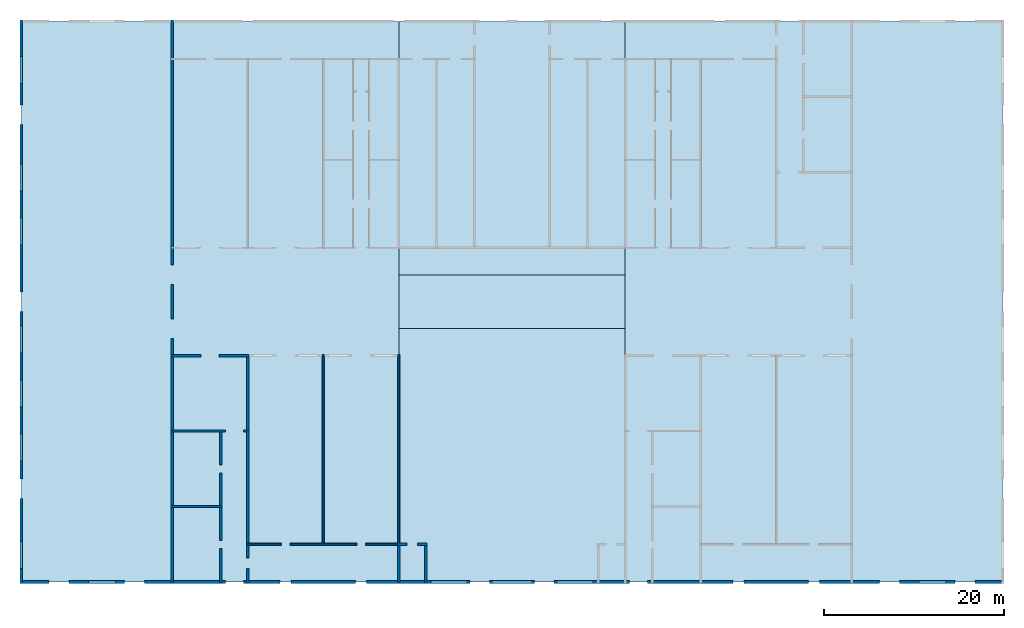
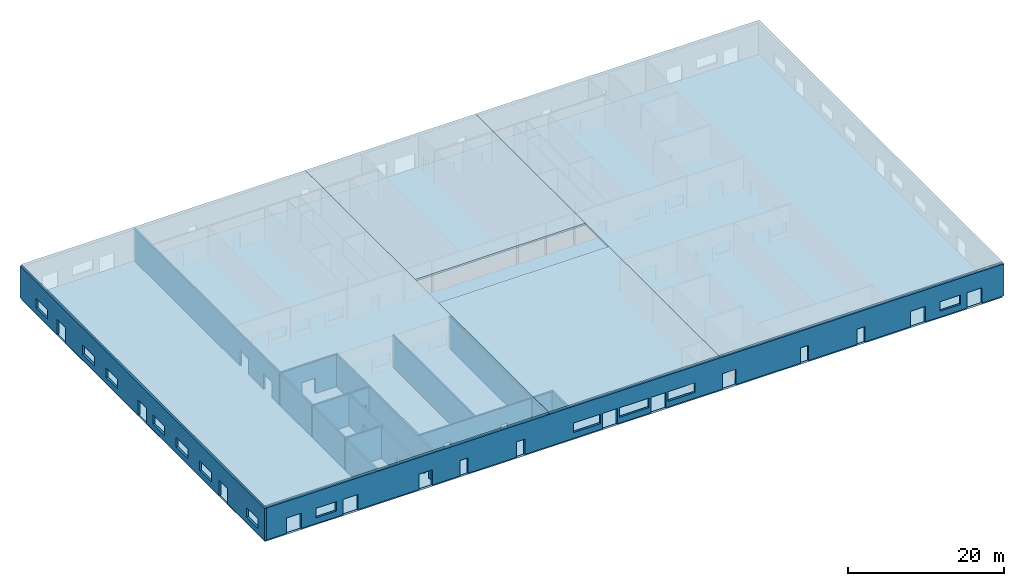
# One storey, part 1 of 3: 14 walls, 5 slabs, 52 openings.
"""IFC4 building model written with IfcOpenShell, lengths in millimetres."""

from ifc_helpers import new_model, si_unit, frame, origin_with_axes, place, context, subcontext, project, spatial, indexed_curve, outline, extrude, type_object, element, save


model = new_model("IFC4")

# Units and contexts
model_context = context("Model", 3, precision=1e-05, world=origin_with_axes())
body_context = subcontext(model_context, "Body", "Model", "MODEL_VIEW")
ifc_project = project(units=[si_unit("AREAUNIT", "SQUARE_METRE"), si_unit("VOLUMEUNIT", "CUBIC_METRE"), si_unit("LENGTHUNIT", "METRE", prefix="MILLI")], contexts=[model_context])

# Site, building, storey
site = spatial("IfcSite", under=ifc_project, Name="PIN 00000000 (sample)")
building = spatial("IfcBuilding", under=site, Name="Sample Shopping Mall")
storey = spatial("IfcBuildingStorey", under=building, Name="Ground Floor", Elevation=0.0)

# Slabs
slab_1_placement = place(None, frame((0.0, 0.0, -300.0), z_axis=(0.0, 0.0, 1.0), x_axis=(1.0, 0.0, 0.0)))
element("IfcSlab", 1, at=slab_1_placement, inside=storey, Name="Ground slab", PredefinedType="FLOOR", context=body_context, shape_type="SweptSolid", body=[
    extrude(outline(indexed_curve([(5400.0, 15600.0), (114599.99999999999, 15600.0), (114599.99999999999, 78000.0), (5400.0, 78000.0)])), None, (0.0, 0.0, 1.0), 300.0),
])
slab_2_placement = place(None, frame((0.0, 0.0, 5000.0), z_axis=(0.0, 0.0, 1.0), x_axis=(1.0, 0.0, 0.0)))
element("IfcSlab", 2, at=slab_2_placement, inside=storey, Name="Roof slab 0", PredefinedType="ROOF", context=body_context, shape_type="SweptSolid", body=[
    extrude(outline(indexed_curve([(5400.0, 15600.0), (47400.0, 15600.0), (47400.0, 78000.0), (5400.0, 78000.0)])), None, (0.0, 0.0, 1.0), 300.0),
])
slab_3_placement = place(None, frame((0.0, 0.0, 5000.0), z_axis=(0.0, 0.0, 1.0), x_axis=(1.0, 0.0, 0.0)))
element("IfcSlab", 3, at=slab_3_placement, inside=storey, Name="Roof slab 1", PredefinedType="ROOF", context=body_context, shape_type="SweptSolid", body=[
    extrude(outline(indexed_curve([(72600.0, 15600.0), (114599.99999999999, 15600.0), (114599.99999999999, 78000.0), (72600.0, 78000.0)])), None, (0.0, 0.0, 1.0), 300.0),
])
slab_4_placement = place(None, frame((0.0, 0.0, 5000.0), z_axis=(0.0, 0.0, 1.0), x_axis=(1.0, 0.0, 0.0)))
element("IfcSlab", 4, at=slab_4_placement, inside=storey, Name="Roof slab 2", PredefinedType="ROOF", context=body_context, shape_type="SweptSolid", body=[
    extrude(outline(indexed_curve([(47400.0, 15600.0), (72600.0, 15600.0), (72600.0, 43799.99999999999), (47400.0, 43799.99999999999)])), None, (0.0, 0.0, 1.0), 300.0),
])
slab_5_placement = place(None, frame((0.0, 0.0, 5000.0), z_axis=(0.0, 0.0, 1.0), x_axis=(1.0, 0.0, 0.0)))
element("IfcSlab", 5, at=slab_5_placement, inside=storey, Name="Roof slab 3", PredefinedType="ROOF", context=body_context, shape_type="SweptSolid", body=[
    extrude(outline(indexed_curve([(47400.0, 49799.99999999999), (72600.0, 49799.99999999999), (72600.0, 78000.0), (47400.0, 78000.0)])), None, (0.0, 0.0, 1.0), 300.0),
])

# Wall, openings
wall_type_1 = type_object("IfcWallType", Name="WT-300", PredefinedType="SOLIDWALL")
wall_1_placement = place(None, frame((5250.0, 15449.999999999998, 0.0), z_axis=(0.0, 0.0, 1.0), x_axis=(1.0, 0.0, 0.0)))
wall_1 = element("IfcWall", 6, at=wall_1_placement, inside=storey, type_object=wall_type_1, Name="W0", context=body_context, shape_type="SweptSolid", body=[
    extrude(outline(indexed_curve([(0.0, 0.0), (0.0, 300.0), (109499.99999999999, 300.0), (109499.99999999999, 0.0), (0.0, 0.0)], self_intersect=False)), origin_with_axes(), (0.0, 0.0, 1.0), 5000.0),
])
opening_1_placement = place(wall_1_placement, frame((50049.99999999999, -99.99999999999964, 0.0), z_axis=(0.0, 0.0, 1.0), x_axis=(1.0, 0.0, 0.0)))
element("IfcOpeningElement", 7, at=opening_1_placement, cuts=wall_1, Name="D03-opening", context=body_context, shape_type="SweptSolid", body=[
    extrude(outline(indexed_curve([(0.0, 0.0), (0.0, 500.0), (1100.0, 500.0), (1100.0, 0.0), (0.0, 0.0)], self_intersect=False)), origin_with_axes(), (0.0, 0.0, 1.0), 2400.0),
])
opening_2_placement = place(wall_1_placement, frame((51150.0, -99.99999999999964, 0.0), z_axis=(0.0, 0.0, 1.0), x_axis=(1.0, 0.0, 0.0)))
element("IfcOpeningElement", 8, at=opening_2_placement, cuts=wall_1, Name="-opening", context=body_context, shape_type="SweptSolid", body=[
    extrude(outline(indexed_curve([(0.0, 0.0), (0.0, 500.0), (1100.0, 500.0), (1100.0, 0.0), (0.0, 0.0)], self_intersect=False)), origin_with_axes(), (0.0, 0.0, 1.0), 2400.0),
])
opening_3_placement = place(wall_1_placement, frame((57250.0, -99.99999999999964, 0.0), z_axis=(0.0, 0.0, 1.0), x_axis=(1.0, 0.0, 0.0)))
element("IfcOpeningElement", 9, at=opening_3_placement, cuts=wall_1, Name="D04-opening", context=body_context, shape_type="SweptSolid", body=[
    extrude(outline(indexed_curve([(0.0, 0.0), (0.0, 500.0), (1100.0, 500.0), (1100.0, 0.0), (0.0, 0.0)], self_intersect=False)), origin_with_axes(), (0.0, 0.0, 1.0), 2400.0),
])
opening_4_placement = place(wall_1_placement, frame((58350.0, -99.99999999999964, 0.0), z_axis=(0.0, 0.0, 1.0), x_axis=(1.0, 0.0, 0.0)))
element("IfcOpeningElement", 10, at=opening_4_placement, cuts=wall_1, Name="-opening", context=body_context, shape_type="SweptSolid", body=[
    extrude(outline(indexed_curve([(0.0, 0.0), (0.0, 500.0), (1100.0, 500.0), (1100.0, 0.0), (0.0, 0.0)], self_intersect=False)), origin_with_axes(), (0.0, 0.0, 1.0), 2400.0),
])
opening_5_placement = place(wall_1_placement, frame((3250.0, -99.99999999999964, 0.0), z_axis=(0.0, 0.0, 1.0), x_axis=(1.0, 0.0, 0.0)))
element("IfcOpeningElement", 11, at=opening_5_placement, cuts=wall_1, Name="D10-opening", context=body_context, shape_type="SweptSolid", body=[
    extrude(outline(indexed_curve([(0.0, 0.0), (0.0, 500.0), (1100.0, 500.0), (1100.0, 0.0), (0.0, 0.0)], self_intersect=False)), origin_with_axes(), (0.0, 0.0, 1.0), 2400.0),
])
opening_6_placement = place(wall_1_placement, frame((4350.000000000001, -99.99999999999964, 0.0), z_axis=(0.0, 0.0, 1.0), x_axis=(1.0, 0.0, 0.0)))
element("IfcOpeningElement", 12, at=opening_6_placement, cuts=wall_1, Name="-opening", context=body_context, shape_type="SweptSolid", body=[
    extrude(outline(indexed_curve([(0.0, 0.0), (0.0, 500.0), (1100.0, 500.0), (1100.0, 0.0), (0.0, 0.0)], self_intersect=False)), origin_with_axes(), (0.0, 0.0, 1.0), 2400.0),
])
opening_7_placement = place(wall_1_placement, frame((11649.999999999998, -99.99999999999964, 0.0), z_axis=(0.0, 0.0, 1.0), x_axis=(1.0, 0.0, 0.0)))
element("IfcOpeningElement", 13, at=opening_7_placement, cuts=wall_1, Name="D11-opening", context=body_context, shape_type="SweptSolid", body=[
    extrude(outline(indexed_curve([(0.0, 0.0), (0.0, 500.0), (1100.0, 500.0), (1100.0, 0.0), (0.0, 0.0)], self_intersect=False)), origin_with_axes(), (0.0, 0.0, 1.0), 2400.0),
])
opening_8_placement = place(wall_1_placement, frame((12750.0, -99.99999999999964, 0.0), z_axis=(0.0, 0.0, 1.0), x_axis=(1.0, 0.0, 0.0)))
element("IfcOpeningElement", 14, at=opening_8_placement, cuts=wall_1, Name="-opening", context=body_context, shape_type="SweptSolid", body=[
    extrude(outline(indexed_curve([(0.0, 0.0), (0.0, 500.0), (1100.0, 500.0), (1100.0, 0.0), (0.0, 0.0)], self_intersect=False)), origin_with_axes(), (0.0, 0.0, 1.0), 2400.0),
])
opening_9_placement = place(wall_1_placement, frame((95650.0, -99.99999999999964, 0.0), z_axis=(0.0, 0.0, 1.0), x_axis=(1.0, 0.0, 0.0)))
element("IfcOpeningElement", 15, at=opening_9_placement, cuts=wall_1, Name="D19-opening", context=body_context, shape_type="SweptSolid", body=[
    extrude(outline(indexed_curve([(0.0, 0.0), (0.0, 500.0), (1100.0, 500.0), (1100.0, 0.0), (0.0, 0.0)], self_intersect=False)), origin_with_axes(), (0.0, 0.0, 1.0), 2400.0),
])
opening_10_placement = place(wall_1_placement, frame((96750.0, -99.99999999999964, 0.0), z_axis=(0.0, 0.0, 1.0), x_axis=(1.0, 0.0, 0.0)))
element("IfcOpeningElement", 16, at=opening_10_placement, cuts=wall_1, Name="-opening", context=body_context, shape_type="SweptSolid", body=[
    extrude(outline(indexed_curve([(0.0, 0.0), (0.0, 500.0), (1100.0, 500.0), (1100.0, 0.0), (0.0, 0.0)], self_intersect=False)), origin_with_axes(), (0.0, 0.0, 1.0), 2400.0),
])
opening_11_placement = place(wall_1_placement, frame((104050.00000000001, -99.99999999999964, 0.0), z_axis=(0.0, 0.0, 1.0), x_axis=(1.0, 0.0, 0.0)))
element("IfcOpeningElement", 17, at=opening_11_placement, cuts=wall_1, Name="D20-opening", context=body_context, shape_type="SweptSolid", body=[
    extrude(outline(indexed_curve([(0.0, 0.0), (0.0, 500.0), (1100.0, 500.0), (1100.0, 0.0), (0.0, 0.0)], self_intersect=False)), origin_with_axes(), (0.0, 0.0, 1.0), 2400.0),
])
opening_12_placement = place(wall_1_placement, frame((105150.0, -99.99999999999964, 0.0), z_axis=(0.0, 0.0, 1.0), x_axis=(1.0, 0.0, 0.0)))
element("IfcOpeningElement", 18, at=opening_12_placement, cuts=wall_1, Name="-opening", context=body_context, shape_type="SweptSolid", body=[
    extrude(outline(indexed_curve([(0.0, 0.0), (0.0, 500.0), (1100.0, 500.0), (1100.0, 0.0), (0.0, 0.0)], self_intersect=False)), origin_with_axes(), (0.0, 0.0, 1.0), 2400.0),
])
opening_13_placement = place(wall_1_placement, frame((28950.000000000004, -99.99999999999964, 0.0), z_axis=(0.0, 0.0, 1.0), x_axis=(1.0, 0.0, 0.0)))
element("IfcOpeningElement", 19, at=opening_13_placement, cuts=wall_1, Name="D23-opening", context=body_context, shape_type="SweptSolid", body=[
    extrude(outline(indexed_curve([(0.0, 0.0), (0.0, 500.0), (1200.0, 500.0), (1200.0, 0.0), (0.0, 0.0)], self_intersect=False)), origin_with_axes(), (0.0, 0.0, 1.0), 2400.0),
])
opening_14_placement = place(wall_1_placement, frame((37350.0, -99.99999999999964, 0.0), z_axis=(0.0, 0.0, 1.0), x_axis=(1.0, 0.0, 0.0)))
element("IfcOpeningElement", 20, at=opening_14_placement, cuts=wall_1, Name="D24-opening", context=body_context, shape_type="SweptSolid", body=[
    extrude(outline(indexed_curve([(0.0, 0.0), (0.0, 500.0), (1200.0, 500.0), (1200.0, 0.0), (0.0, 0.0)], self_intersect=False)), origin_with_axes(), (0.0, 0.0, 1.0), 2400.0),
])
opening_15_placement = place(wall_1_placement, frame((79350.0, -99.99999999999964, 0.0), z_axis=(0.0, 0.0, 1.0), x_axis=(1.0, 0.0, 0.0)))
element("IfcOpeningElement", 21, at=opening_15_placement, cuts=wall_1, Name="D25-opening", context=body_context, shape_type="SweptSolid", body=[
    extrude(outline(indexed_curve([(0.0, 0.0), (0.0, 500.0), (1200.0, 500.0), (1200.0, 0.0), (0.0, 0.0)], self_intersect=False)), origin_with_axes(), (0.0, 0.0, 1.0), 2400.0),
])
opening_16_placement = place(wall_1_placement, frame((87750.0, -99.99999999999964, 0.0), z_axis=(0.0, 0.0, 1.0), x_axis=(1.0, 0.0, 0.0)))
element("IfcOpeningElement", 22, at=opening_16_placement, cuts=wall_1, Name="D26-opening", context=body_context, shape_type="SweptSolid", body=[
    extrude(outline(indexed_curve([(0.0, 0.0), (0.0, 500.0), (1200.0, 500.0), (1200.0, 0.0), (0.0, 0.0)], self_intersect=False)), origin_with_axes(), (0.0, 0.0, 1.0), 2400.0),
])
opening_17_placement = place(wall_1_placement, frame((22850.0, -99.99999999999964, 0.0), z_axis=(0.0, 0.0, 1.0), x_axis=(1.0, 0.0, 0.0)))
element("IfcOpeningElement", 23, at=opening_17_placement, cuts=wall_1, Name="D33-opening", context=body_context, shape_type="SweptSolid", body=[
    extrude(outline(indexed_curve([(0.0, 0.0), (0.0, 500.0), (1000.0, 500.0), (1000.0, 0.0), (0.0, 0.0)], self_intersect=False)), origin_with_axes(), (0.0, 0.0, 1.0), 2400.0),
])
opening_18_placement = place(wall_1_placement, frame((23850.0, -99.99999999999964, 0.0), z_axis=(0.0, 0.0, 1.0), x_axis=(1.0, 0.0, 0.0)))
element("IfcOpeningElement", 24, at=opening_18_placement, cuts=wall_1, Name="-opening", context=body_context, shape_type="SweptSolid", body=[
    extrude(outline(indexed_curve([(0.0, 0.0), (0.0, 500.0), (1000.0, 500.0), (1000.0, 0.0), (0.0, 0.0)], self_intersect=False)), origin_with_axes(), (0.0, 0.0, 1.0), 2400.0),
])
opening_19_placement = place(wall_1_placement, frame((67850.0, -99.99999999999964, 0.0), z_axis=(0.0, 0.0, 1.0), x_axis=(1.0, 0.0, 0.0)))
element("IfcOpeningElement", 25, at=opening_19_placement, cuts=wall_1, Name="D43-opening", context=body_context, shape_type="SweptSolid", body=[
    extrude(outline(indexed_curve([(0.0, 0.0), (0.0, 500.0), (1000.0, 500.0), (1000.0, 0.0), (0.0, 0.0)], self_intersect=False)), origin_with_axes(), (0.0, 0.0, 1.0), 2400.0),
])
opening_20_placement = place(wall_1_placement, frame((68850.0, -99.99999999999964, 0.0), z_axis=(0.0, 0.0, 1.0), x_axis=(1.0, 0.0, 0.0)))
element("IfcOpeningElement", 26, at=opening_20_placement, cuts=wall_1, Name="-opening", context=body_context, shape_type="SweptSolid", body=[
    extrude(outline(indexed_curve([(0.0, 0.0), (0.0, 500.0), (1000.0, 500.0), (1000.0, 0.0), (0.0, 0.0)], self_intersect=False)), origin_with_axes(), (0.0, 0.0, 1.0), 2400.0),
])
opening_21_placement = place(wall_1_placement, frame((45750.0, -99.99999999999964, 900.0), z_axis=(0.0, 0.0, 1.0), x_axis=(1.0, 0.0, 0.0)))
element("IfcOpeningElement", 27, at=opening_21_placement, cuts=wall_1, Name="-opening", context=body_context, shape_type="SweptSolid", body=[
    extrude(outline(indexed_curve([(0.0, 0.0), (0.0, 500.0), (4000.0, 500.0), (4000.0, 0.0), (0.0, 0.0)], self_intersect=False)), origin_with_axes(), (0.0, 0.0, 1.0), 1500.0),
])
opening_22_placement = place(wall_1_placement, frame((52549.99999999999, -99.99999999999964, 900.0), z_axis=(0.0, 0.0, 1.0), x_axis=(1.0, 0.0, 0.0)))
element("IfcOpeningElement", 28, at=opening_22_placement, cuts=wall_1, Name="-opening", context=body_context, shape_type="SweptSolid", body=[
    extrude(outline(indexed_curve([(0.0, 0.0), (0.0, 500.0), (4400.0, 500.0), (4400.0, 0.0), (0.0, 0.0)], self_intersect=False)), origin_with_axes(), (0.0, 0.0, 1.0), 1500.0),
])
opening_23_placement = place(wall_1_placement, frame((59750.0, -99.99999999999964, 900.0), z_axis=(0.0, 0.0, 1.0), x_axis=(1.0, 0.0, 0.0)))
element("IfcOpeningElement", 29, at=opening_23_placement, cuts=wall_1, Name="-opening", context=body_context, shape_type="SweptSolid", body=[
    extrude(outline(indexed_curve([(0.0, 0.0), (0.0, 500.0), (4000.0, 500.0), (4000.0, 0.0), (0.0, 0.0)], self_intersect=False)), origin_with_axes(), (0.0, 0.0, 1.0), 1500.0),
])
opening_24_placement = place(wall_1_placement, frame((7650.0, -99.99999999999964, 900.0), z_axis=(0.0, 0.0, 1.0), x_axis=(1.0, 0.0, 0.0)))
element("IfcOpeningElement", 30, at=opening_24_placement, cuts=wall_1, Name="-opening", context=body_context, shape_type="SweptSolid", body=[
    extrude(outline(indexed_curve([(0.0, 0.0), (0.0, 500.0), (3000.0, 500.0), (3000.0, 0.0), (0.0, 0.0)], self_intersect=False)), origin_with_axes(), (0.0, 0.0, 1.0), 1500.0),
])
opening_25_placement = place(wall_1_placement, frame((100050.00000000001, -99.99999999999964, 900.0), z_axis=(0.0, 0.0, 1.0), x_axis=(1.0, 0.0, 0.0)))
element("IfcOpeningElement", 31, at=opening_25_placement, cuts=wall_1, Name="-opening", context=body_context, shape_type="SweptSolid", body=[
    extrude(outline(indexed_curve([(0.0, 0.0), (0.0, 500.0), (3000.0, 500.0), (3000.0, 0.0), (0.0, 0.0)], self_intersect=False)), origin_with_axes(), (0.0, 0.0, 1.0), 1500.0),
])

wall_2_placement = place(None, frame((5550.000000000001, 15449.999999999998, 0.0), z_axis=(0.0, 0.0, 1.0), x_axis=(6.123233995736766e-17, 1.0, 0.0)))
wall_2 = element("IfcWall", 32, at=wall_2_placement, inside=storey, type_object=wall_type_1, Name="W30", context=body_context, shape_type="SweptSolid", body=[
    extrude(outline(indexed_curve([(0.0, 0.0), (0.0, 300.0), (62699.99999999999, 300.0), (62699.99999999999, 0.0), (0.0, 0.0)], self_intersect=False)), origin_with_axes(), (0.0, 0.0, 1.0), 5000.0),
])
opening_26_placement = place(wall_2_placement, frame((9450.0, -99.99999999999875, 0.0), z_axis=(0.0, 0.0, 1.0), x_axis=(1.0, 0.0, 0.0)))
element("IfcOpeningElement", 33, at=opening_26_placement, cuts=wall_2, Name="D07-opening", context=body_context, shape_type="SweptSolid", body=[
    extrude(outline(indexed_curve([(0.0, 0.0), (0.0, 500.0), (1100.0, 500.0), (1100.0, 0.0), (0.0, 0.0)], self_intersect=False)), origin_with_axes(), (0.0, 0.0, 1.0), 2400.0),
])
opening_27_placement = place(wall_2_placement, frame((10550.0, -99.99999999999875, 0.0), z_axis=(0.0, 0.0, 1.0), x_axis=(1.0, 0.0, 0.0)))
element("IfcOpeningElement", 34, at=opening_27_placement, cuts=wall_2, Name="-opening", context=body_context, shape_type="SweptSolid", body=[
    extrude(outline(indexed_curve([(0.0, 0.0), (0.0, 500.0), (1100.0, 500.0), (1100.0, 0.0), (0.0, 0.0)], self_intersect=False)), origin_with_axes(), (0.0, 0.0, 1.0), 2400.0),
])
opening_28_placement = place(wall_2_placement, frame((30250.000000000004, -99.99999999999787, 0.0), z_axis=(0.0, 0.0, 1.0), x_axis=(1.0, 0.0, 0.0)))
element("IfcOpeningElement", 35, at=opening_28_placement, cuts=wall_2, Name="D08-opening", context=body_context, shape_type="SweptSolid", body=[
    extrude(outline(indexed_curve([(0.0, 0.0), (0.0, 500.0), (1100.0, 500.0), (1100.0, 0.0), (0.0, 0.0)], self_intersect=False)), origin_with_axes(), (0.0, 0.0, 1.0), 2400.0),
])
opening_29_placement = place(wall_2_placement, frame((31349.999999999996, -99.99999999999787, 0.0), z_axis=(0.0, 0.0, 1.0), x_axis=(1.0, 0.0, 0.0)))
element("IfcOpeningElement", 36, at=opening_29_placement, cuts=wall_2, Name="-opening", context=body_context, shape_type="SweptSolid", body=[
    extrude(outline(indexed_curve([(0.0, 0.0), (0.0, 500.0), (1100.0, 500.0), (1100.0, 0.0), (0.0, 0.0)], self_intersect=False)), origin_with_axes(), (0.0, 0.0, 1.0), 2400.0),
])
opening_30_placement = place(wall_2_placement, frame((51049.99999999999, -99.99999999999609, 0.0), z_axis=(0.0, 0.0, 1.0), x_axis=(1.0, 0.0, 0.0)))
element("IfcOpeningElement", 37, at=opening_30_placement, cuts=wall_2, Name="D09-opening", context=body_context, shape_type="SweptSolid", body=[
    extrude(outline(indexed_curve([(0.0, 0.0), (0.0, 500.0), (1100.0, 500.0), (1100.0, 0.0), (0.0, 0.0)], self_intersect=False)), origin_with_axes(), (0.0, 0.0, 1.0), 2400.0),
])
opening_31_placement = place(wall_2_placement, frame((52149.99999999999, -99.99999999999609, 0.0), z_axis=(0.0, 0.0, 1.0), x_axis=(1.0, 0.0, 0.0)))
element("IfcOpeningElement", 38, at=opening_31_placement, cuts=wall_2, Name="-opening", context=body_context, shape_type="SweptSolid", body=[
    extrude(outline(indexed_curve([(0.0, 0.0), (0.0, 500.0), (1100.0, 500.0), (1100.0, 0.0), (0.0, 0.0)], self_intersect=False)), origin_with_axes(), (0.0, 0.0, 1.0), 2400.0),
])
opening_32_placement = place(wall_2_placement, frame((1650.000000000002, -99.99999999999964, 900.0), z_axis=(0.0, 0.0, 1.0), x_axis=(1.0, 0.0, 0.0)))
element("IfcOpeningElement", 39, at=opening_32_placement, cuts=wall_2, Name="-opening", context=body_context, shape_type="SweptSolid", body=[
    extrude(outline(indexed_curve([(0.0, 0.0), (0.0, 500.0), (3000.0, 500.0), (3000.0, 0.0), (0.0, 0.0)], self_intersect=False)), origin_with_axes(), (0.0, 0.0, 1.0), 1500.0),
])
opening_33_placement = place(wall_2_placement, frame((13650.000000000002, -99.99999999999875, 900.0), z_axis=(0.0, 0.0, 1.0), x_axis=(1.0, 0.0, 0.0)))
element("IfcOpeningElement", 40, at=opening_33_placement, cuts=wall_2, Name="-opening", context=body_context, shape_type="SweptSolid", body=[
    extrude(outline(indexed_curve([(0.0, 0.0), (0.0, 500.0), (3000.0, 500.0), (3000.0, 0.0), (0.0, 0.0)], self_intersect=False)), origin_with_axes(), (0.0, 0.0, 1.0), 1500.0),
])
opening_34_placement = place(wall_2_placement, frame((19650.0, -99.99999999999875, 900.0), z_axis=(0.0, 0.0, 1.0), x_axis=(1.0, 0.0, 0.0)))
element("IfcOpeningElement", 41, at=opening_34_placement, cuts=wall_2, Name="-opening", context=body_context, shape_type="SweptSolid", body=[
    extrude(outline(indexed_curve([(0.0, 0.0), (0.0, 500.0), (3000.0, 500.0), (3000.0, 0.0), (0.0, 0.0)], self_intersect=False)), origin_with_axes(), (0.0, 0.0, 1.0), 1500.0),
])
opening_35_placement = place(wall_2_placement, frame((25650.0, -99.99999999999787, 900.0), z_axis=(0.0, 0.0, 1.0), x_axis=(1.0, 0.0, 0.0)))
element("IfcOpeningElement", 42, at=opening_35_placement, cuts=wall_2, Name="-opening", context=body_context, shape_type="SweptSolid", body=[
    extrude(outline(indexed_curve([(0.0, 0.0), (0.0, 500.0), (3000.0, 500.0), (3000.0, 0.0), (0.0, 0.0)], self_intersect=False)), origin_with_axes(), (0.0, 0.0, 1.0), 1500.0),
])
opening_36_placement = place(wall_2_placement, frame((37650.00000000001, -99.99999999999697, 900.0), z_axis=(0.0, 0.0, 1.0), x_axis=(1.0, 0.0, 0.0)))
element("IfcOpeningElement", 43, at=opening_36_placement, cuts=wall_2, Name="-opening", context=body_context, shape_type="SweptSolid", body=[
    extrude(outline(indexed_curve([(0.0, 0.0), (0.0, 500.0), (3000.0, 500.0), (3000.0, 0.0), (0.0, 0.0)], self_intersect=False)), origin_with_axes(), (0.0, 0.0, 1.0), 1500.0),
])
opening_37_placement = place(wall_2_placement, frame((43650.00000000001, -99.99999999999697, 900.0), z_axis=(0.0, 0.0, 1.0), x_axis=(1.0, 0.0, 0.0)))
element("IfcOpeningElement", 44, at=opening_37_placement, cuts=wall_2, Name="-opening", context=body_context, shape_type="SweptSolid", body=[
    extrude(outline(indexed_curve([(0.0, 0.0), (0.0, 500.0), (3000.0, 500.0), (3000.0, 0.0), (0.0, 0.0)], self_intersect=False)), origin_with_axes(), (0.0, 0.0, 1.0), 1500.0),
])
opening_38_placement = place(wall_2_placement, frame((55650.00000000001, -99.99999999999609, 900.0), z_axis=(0.0, 0.0, 1.0), x_axis=(1.0, 0.0, 0.0)))
element("IfcOpeningElement", 45, at=opening_38_placement, cuts=wall_2, Name="-opening", context=body_context, shape_type="SweptSolid", body=[
    extrude(outline(indexed_curve([(0.0, 0.0), (0.0, 500.0), (3000.0, 500.0), (3000.0, 0.0), (0.0, 0.0)], self_intersect=False)), origin_with_axes(), (0.0, 0.0, 1.0), 1500.0),
])

wall_type_2 = type_object("IfcWallType", Name="WT-200", PredefinedType="SOLIDWALL")
wall_3_placement = place(None, frame((30500.0, 19700.0, 0.0), z_axis=(0.0, 0.0, 1.0), x_axis=(1.0, 0.0, 0.0)))
wall_3 = element("IfcWall", 46, at=wall_3_placement, inside=storey, type_object=wall_type_2, Name="W1", context=body_context, shape_type="SweptSolid", body=[
    extrude(outline(indexed_curve([(0.0, 0.0), (0.0, 200.0), (16999.999999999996, 200.0), (16999.999999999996, 0.0), (0.0, 0.0)], self_intersect=False)), origin_with_axes(), (0.0, 0.0, 1.0), 5000.0),
])
opening_39_placement = place(wall_3_placement, frame((3800.000000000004, -99.99999999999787, 0.0), z_axis=(0.0, 0.0, 1.0), x_axis=(1.0, 0.0, 0.0)))
element("IfcOpeningElement", 47, at=opening_39_placement, cuts=wall_3, Name="-opening", context=body_context, shape_type="SweptSolid", body=[
    extrude(outline(indexed_curve([(0.0, 0.0), (0.0, 400.0), (1000.0, 400.0), (1000.0, 0.0), (0.0, 0.0)], self_intersect=False)), origin_with_axes(), (0.0, 0.0, 1.0), 2400.0),
])
opening_40_placement = place(wall_3_placement, frame((12200.000000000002, -99.99999999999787, 0.0), z_axis=(0.0, 0.0, 1.0), x_axis=(1.0, 0.0, 0.0)))
element("IfcOpeningElement", 48, at=opening_40_placement, cuts=wall_3, Name="-opening", context=body_context, shape_type="SweptSolid", body=[
    extrude(outline(indexed_curve([(0.0, 0.0), (0.0, 400.0), (1000.0, 400.0), (1000.0, 0.0), (0.0, 0.0)], self_intersect=False)), origin_with_axes(), (0.0, 0.0, 1.0), 2400.0),
])

# Walls
for number, where, z_axis, x_axis, name in (
    (49, (39100.0, 19700.0, 0.0), (0.0, 0.0, 1.0), (6.123233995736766e-17, 1.0, 0.0), "W35"),
    (50, (47500.0, 19700.0, 0.0), (0.0, 0.0, 1.0), (6.123233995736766e-17, 1.0, 0.0), "W40"),
):
    element("IfcWall", number, at=place(None, frame(where, z_axis=z_axis, x_axis=x_axis)), inside=storey, type_object=wall_type_2, Name=name, context=body_context, shape_type="SweptSolid", body=[
        extrude(outline(indexed_curve([(0.0, 0.0), (0.0, 200.0), (21199.999999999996, 200.0), (21199.999999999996, 0.0), (0.0, 0.0)], self_intersect=False)), origin_with_axes(), (0.0, 0.0, 1.0), 5000.0),
    ])

# Wall, opening
wall_type_3 = type_object("IfcWallType", Name="WT-250", PredefinedType="SOLIDWALL")
wall_4_placement = place(None, frame((47275.0, 19675.0, 0.0), z_axis=(0.0, 0.0, 1.0), x_axis=(1.0, 0.0, 0.0)))
wall_4 = element("IfcWall", 51, at=wall_4_placement, inside=storey, type_object=wall_type_3, Name="W2", context=body_context, shape_type="SweptSolid", body=[
    extrude(outline(indexed_curve([(0.0, 0.0), (0.0, 250.0), (3250.0, 250.0), (3250.0, 0.0), (0.0, 0.0)], self_intersect=False)), origin_with_axes(), (0.0, 0.0, 1.0), 5000.0),
])
opening_41_placement = place(wall_4_placement, frame((1024.9999999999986, -100.00000000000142, 0.0), z_axis=(0.0, 0.0, 1.0), x_axis=(1.0, 0.0, 0.0)))
element("IfcOpeningElement", 52, at=opening_41_placement, cuts=wall_4, Name="D01-opening", context=body_context, shape_type="SweptSolid", body=[
    extrude(outline(indexed_curve([(0.0, 0.0), (0.0, 450.0), (1200.0, 450.0), (1200.0, 0.0), (0.0, 0.0)], self_intersect=False)), origin_with_axes(), (0.0, 0.0, 1.0), 2400.0),
])

# Wall
wall_5_placement = place(None, frame((22075.0, 23875.0, 0.0), z_axis=(0.0, 0.0, 1.0), x_axis=(1.0, 0.0, 0.0)))
element("IfcWall", 53, at=wall_5_placement, inside=storey, type_object=wall_type_3, Name="W5", context=body_context, shape_type="SweptSolid", body=[
    extrude(outline(indexed_curve([(0.0, 0.0), (0.0, 250.0), (5650.000000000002, 250.0), (5650.000000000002, 0.0), (0.0, 0.0)], self_intersect=False)), origin_with_axes(), (0.0, 0.0, 1.0), 5000.0),
])

# Wall, openings
wall_6_placement = place(None, frame((22075.0, 32274.999999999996, 0.0), z_axis=(0.0, 0.0, 1.0), x_axis=(1.0, 0.0, 0.0)))
wall_6 = element("IfcWall", 54, at=wall_6_placement, inside=storey, type_object=wall_type_3, Name="W7", context=body_context, shape_type="SweptSolid", body=[
    extrude(outline(indexed_curve([(0.0, 0.0), (0.0, 250.0), (8650.000000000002, 250.0), (8650.000000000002, 0.0), (0.0, 0.0)], self_intersect=False)), origin_with_axes(), (0.0, 0.0, 1.0), 5000.0),
])
opening_42_placement = place(wall_6_placement, frame((6025.000000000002, -100.00000000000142, 0.0), z_axis=(0.0, 0.0, 1.0), x_axis=(1.0, 0.0, 0.0)))
element("IfcOpeningElement", 55, at=opening_42_placement, cuts=wall_6, Name="D32-opening", context=body_context, shape_type="SweptSolid", body=[
    extrude(outline(indexed_curve([(0.0, 0.0), (0.0, 450.0), (1000.0, 450.0), (1000.0, 0.0), (0.0, 0.0)], self_intersect=False)), origin_with_axes(), (0.0, 0.0, 1.0), 2400.0),
])
opening_43_placement = place(wall_6_placement, frame((7025.000000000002, -100.00000000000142, 0.0), z_axis=(0.0, 0.0, 1.0), x_axis=(1.0, 0.0, 0.0)))
element("IfcOpeningElement", 56, at=opening_43_placement, cuts=wall_6, Name="-opening", context=body_context, shape_type="SweptSolid", body=[
    extrude(outline(indexed_curve([(0.0, 0.0), (0.0, 450.0), (1000.0, 450.0), (1000.0, 0.0), (0.0, 0.0)], self_intersect=False)), origin_with_axes(), (0.0, 0.0, 1.0), 2400.0),
])

wall_7_placement = place(None, frame((22075.0, 40674.99999999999, 0.0), z_axis=(0.0, 0.0, 1.0), x_axis=(1.0, 0.0, 0.0)))
wall_7 = element("IfcWall", 57, at=wall_7_placement, inside=storey, type_object=wall_type_3, Name="W9", context=body_context, shape_type="SweptSolid", body=[
    extrude(outline(indexed_curve([(0.0, 0.0), (0.0, 250.0), (8650.000000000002, 250.0), (8650.000000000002, 0.0), (0.0, 0.0)], self_intersect=False)), origin_with_axes(), (0.0, 0.0, 1.0), 5000.0),
])
opening_44_placement = place(wall_7_placement, frame((3324.999999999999, -99.99999999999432, 0.0), z_axis=(0.0, 0.0, 1.0), x_axis=(1.0, 0.0, 0.0)))
element("IfcOpeningElement", 58, at=opening_44_placement, cuts=wall_7, Name="D31-opening", context=body_context, shape_type="SweptSolid", body=[
    extrude(outline(indexed_curve([(0.0, 0.0), (0.0, 450.0), (1000.0, 450.0), (1000.0, 0.0), (0.0, 0.0)], self_intersect=False)), origin_with_axes(), (0.0, 0.0, 1.0), 2400.0),
])
opening_45_placement = place(wall_7_placement, frame((4324.999999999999, -99.99999999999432, 0.0), z_axis=(0.0, 0.0, 1.0), x_axis=(1.0, 0.0, 0.0)))
element("IfcOpeningElement", 59, at=opening_45_placement, cuts=wall_7, Name="-opening", context=body_context, shape_type="SweptSolid", body=[
    extrude(outline(indexed_curve([(0.0, 0.0), (0.0, 450.0), (1000.0, 450.0), (1000.0, 0.0), (0.0, 0.0)], self_intersect=False)), origin_with_axes(), (0.0, 0.0, 1.0), 2400.0),
])

wall_8_placement = place(None, frame((22325.0, 15475.0, 0.0), z_axis=(0.0, 0.0, 1.0), x_axis=(6.123233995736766e-17, 1.0, 0.0)))
wall_8 = element("IfcWall", 60, at=wall_8_placement, inside=storey, type_object=wall_type_3, Name="W31", context=body_context, shape_type="SweptSolid", body=[
    extrude(outline(indexed_curve([(0.0, 0.0), (0.0, 250.0), (62650.0, 250.0), (62650.0, 0.0), (0.0, 0.0)], self_intersect=False)), origin_with_axes(), (0.0, 0.0, 1.0), 5000.0),
])
opening_46_placement = place(wall_8_placement, frame((27225.0, -99.99999999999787, 0.0), z_axis=(0.0, 0.0, 1.0), x_axis=(1.0, 0.0, 0.0)))
element("IfcOpeningElement", 61, at=opening_46_placement, cuts=wall_8, Name="D05-opening", context=body_context, shape_type="SweptSolid", body=[
    extrude(outline(indexed_curve([(0.0, 0.0), (0.0, 450.0), (1100.0, 450.0), (1100.0, 0.0), (0.0, 0.0)], self_intersect=False)), origin_with_axes(), (0.0, 0.0, 1.0), 2400.0),
])
opening_47_placement = place(wall_8_placement, frame((28324.999999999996, -99.99999999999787, 0.0), z_axis=(0.0, 0.0, 1.0), x_axis=(1.0, 0.0, 0.0)))
element("IfcOpeningElement", 62, at=opening_47_placement, cuts=wall_8, Name="-opening", context=body_context, shape_type="SweptSolid", body=[
    extrude(outline(indexed_curve([(0.0, 0.0), (0.0, 450.0), (1100.0, 450.0), (1100.0, 0.0), (0.0, 0.0)], self_intersect=False)), origin_with_axes(), (0.0, 0.0, 1.0), 2400.0),
])
opening_48_placement = place(wall_8_placement, frame((33225.0, -99.99999999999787, 0.0), z_axis=(0.0, 0.0, 1.0), x_axis=(1.0, 0.0, 0.0)))
element("IfcOpeningElement", 63, at=opening_48_placement, cuts=wall_8, Name="D06-opening", context=body_context, shape_type="SweptSolid", body=[
    extrude(outline(indexed_curve([(0.0, 0.0), (0.0, 450.0), (1100.0, 450.0), (1100.0, 0.0), (0.0, 0.0)], self_intersect=False)), origin_with_axes(), (0.0, 0.0, 1.0), 2400.0),
])
opening_49_placement = place(wall_8_placement, frame((34325.0, -99.99999999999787, 0.0), z_axis=(0.0, 0.0, 1.0), x_axis=(1.0, 0.0, 0.0)))
element("IfcOpeningElement", 64, at=opening_49_placement, cuts=wall_8, Name="-opening", context=body_context, shape_type="SweptSolid", body=[
    extrude(outline(indexed_curve([(0.0, 0.0), (0.0, 450.0), (1100.0, 450.0), (1100.0, 0.0), (0.0, 0.0)], self_intersect=False)), origin_with_axes(), (0.0, 0.0, 1.0), 2400.0),
])

wall_9_placement = place(None, frame((27725.0, 15475.0, 0.0), z_axis=(0.0, 0.0, 1.0), x_axis=(6.123233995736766e-17, 1.0, 0.0)))
wall_9 = element("IfcWall", 65, at=wall_9_placement, inside=storey, type_object=wall_type_3, Name="W32", context=body_context, shape_type="SweptSolid", body=[
    extrude(outline(indexed_curve([(0.0, 0.0), (0.0, 250.0), (17049.999999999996, 250.0), (17049.999999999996, 0.0), (0.0, 0.0)], self_intersect=False)), origin_with_axes(), (0.0, 0.0, 1.0), 5000.0),
])
opening_50_placement = place(wall_9_placement, frame((12274.999999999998, -100.00000000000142, 0.0), z_axis=(0.0, 0.0, 1.0), x_axis=(1.0, 0.0, 0.0)))
element("IfcOpeningElement", 66, at=opening_50_placement, cuts=wall_9, Name="-opening", context=body_context, shape_type="SweptSolid", body=[
    extrude(outline(indexed_curve([(0.0, 0.0), (0.0, 450.0), (900.0, 450.0), (900.0, 0.0), (0.0, 0.0)], self_intersect=False)), origin_with_axes(), (0.0, 0.0, 1.0), 2400.0),
])
opening_51_placement = place(wall_9_placement, frame((3875.0, -100.00000000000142, 0.0), z_axis=(0.0, 0.0, 1.0), x_axis=(1.0, 0.0, 0.0)))
element("IfcOpeningElement", 67, at=opening_51_placement, cuts=wall_9, Name="-opening", context=body_context, shape_type="SweptSolid", body=[
    extrude(outline(indexed_curve([(0.0, 0.0), (0.0, 450.0), (900.0, 450.0), (900.0, 0.0), (0.0, 0.0)], self_intersect=False)), origin_with_axes(), (0.0, 0.0, 1.0), 2400.0),
])

# Wall, opening
wall_10_placement = place(None, frame((30725.0, 15475.0, 0.0), z_axis=(0.0, 0.0, 1.0), x_axis=(6.123233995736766e-17, 1.0, 0.0)))
wall_10 = element("IfcWall", 68, at=wall_10_placement, inside=storey, type_object=wall_type_3, Name="W33", context=body_context, shape_type="SweptSolid", body=[
    extrude(outline(indexed_curve([(0.0, 0.0), (0.0, 250.0), (25449.999999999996, 250.0), (25449.999999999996, 0.0), (0.0, 0.0)], self_intersect=False)), origin_with_axes(), (0.0, 0.0, 1.0), 5000.0),
])
opening_52_placement = place(wall_10_placement, frame((1625.0000000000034, -100.00000000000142, 0.0), z_axis=(0.0, 0.0, 1.0), x_axis=(1.0, 0.0, 0.0)))
element("IfcOpeningElement", 69, at=opening_52_placement, cuts=wall_10, Name="-opening", context=body_context, shape_type="SweptSolid", body=[
    extrude(outline(indexed_curve([(0.0, 0.0), (0.0, 450.0), (1200.0, 450.0), (1200.0, 0.0), (0.0, 0.0)], self_intersect=False)), origin_with_axes(), (0.0, 0.0, 1.0), 2400.0),
])

# Walls
for number, where, z_axis, x_axis, name in (
    (70, (47525.0, 15475.0, 0.0), (0.0, 0.0, 1.0), (6.123233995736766e-17, 1.0, 0.0), "W39"),
    (71, (50525.0, 15475.0, 0.0), (0.0, 0.0, 1.0), (6.123233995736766e-17, 1.0, 0.0), "W42"),
):
    element("IfcWall", number, at=place(None, frame(where, z_axis=z_axis, x_axis=x_axis)), inside=storey, type_object=wall_type_3, Name=name, context=body_context, shape_type="SweptSolid", body=[
        extrude(outline(indexed_curve([(0.0, 0.0), (0.0, 250.0), (4450.000000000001, 250.0), (4450.000000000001, 0.0), (0.0, 0.0)], self_intersect=False)), origin_with_axes(), (0.0, 0.0, 1.0), 5000.0),
    ])

save(model, "model.ifc")
